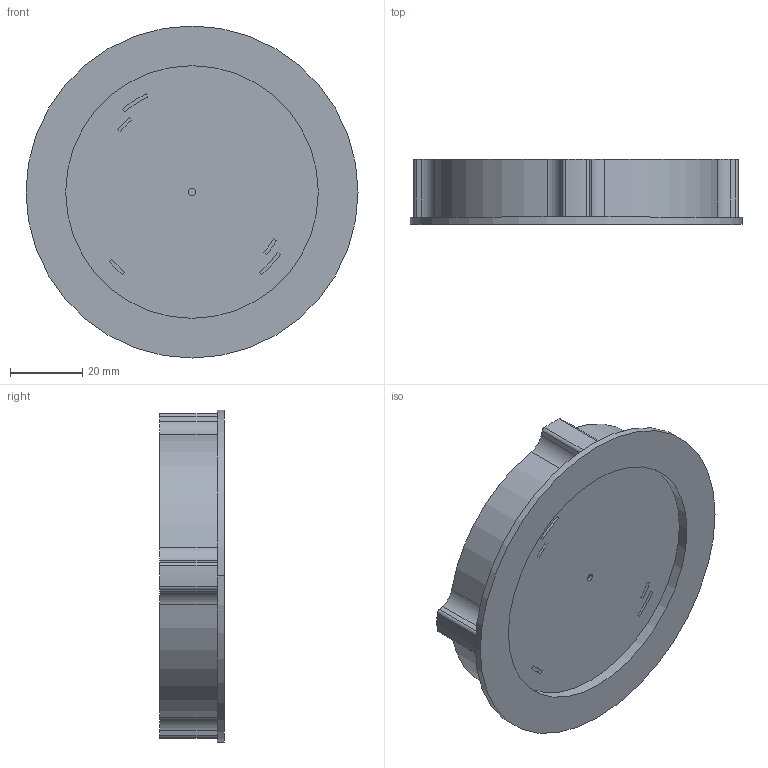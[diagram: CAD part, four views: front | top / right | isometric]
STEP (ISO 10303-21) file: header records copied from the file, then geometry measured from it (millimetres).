
FILE_DESCRIPTION( ( '' ), '1' );
FILE_NAME( 'C:/Documents and Settings/Nikhil/Desktop/Nik/Done/9086694.stp', '2013-10-23T07:42:02', ( '' ), ( '' ), ' ', ' ', ' ' );
FILE_SCHEMA( ( 'automotive_design' ) );
Length unit declared in the file: millimetre
Products named in the file (1): 1
Bounding box: 92 x 18 x 92 mm (x, y, z)
Volume: 84860.9 mm3; surface area: 19272 mm2
Topology: 1 solids, 1 shells, 74 faces, 186 edges, 124 vertices
Faces by surface type: cylinder 44, plane 30
Entity records: 4424 total; most frequent: DIRECTION 424, STYLED_ITEM 385, PRESENTATION_STYLE_ASSIGNMENT 385, CARTESIAN_POINT 385, COLOUR_RGB 385, ORIENTED_EDGE 372, EDGE_CURVE 186, CURVE_STYLE 186
